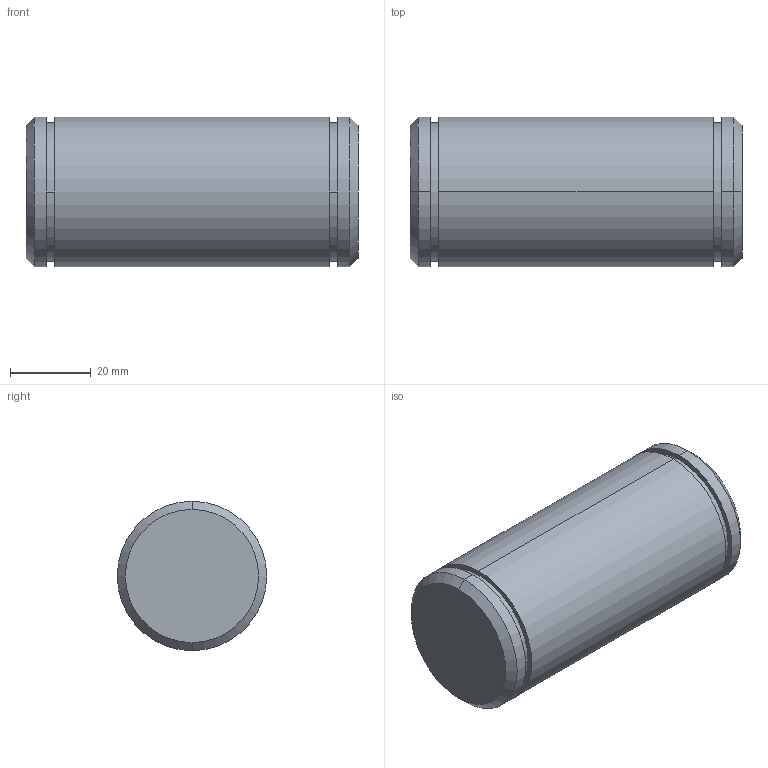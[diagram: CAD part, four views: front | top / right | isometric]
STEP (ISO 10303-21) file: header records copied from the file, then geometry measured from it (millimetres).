
FILE_DESCRIPTION (( 'STEP AP203' ), '1' );
FILE_NAME ('Bolzen Sicherungsring B M36.STEP', '2018-02-22T05:39:18', ( 'install' ), ( 'Hewlett-Packard Company' ), 'SwSTEP 2.0', 'SolidWorks 2017', '' );
FILE_SCHEMA (( 'CONFIG_CONTROL_DESIGN' ));
Length unit declared in the file: millimetre
Products named in the file (1): Bolzen Sicherungsring B M36
Bounding box: 82.2 x 37 x 37 mm (x, y, z)
Volume: 87321.7 mm3; surface area: 11971.4 mm2
Topology: 1 solids, 1 shells, 20 faces, 38 edges, 24 vertices
Faces by surface type: cylinder 10, plane 6, cone 4
Entity records: 591 total; most frequent: DIRECTION 104, CARTESIAN_POINT 83, ORIENTED_EDGE 76, AXIS2_PLACEMENT_3D 45, EDGE_CURVE 38, CIRCLE 24, VERTEX_POINT 24, EDGE_LOOP 24
